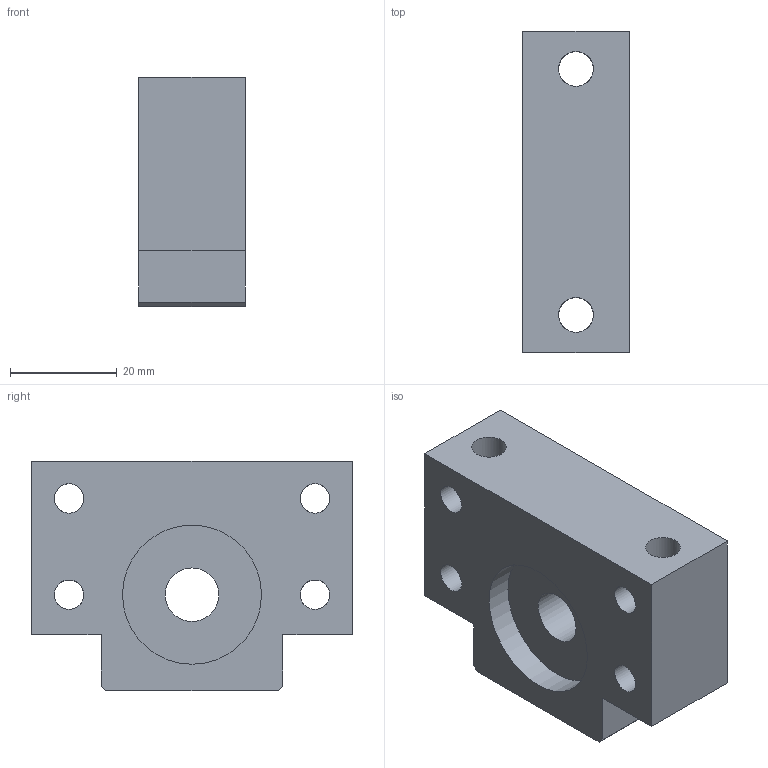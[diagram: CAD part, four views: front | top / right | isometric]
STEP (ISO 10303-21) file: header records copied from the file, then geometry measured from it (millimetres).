
FILE_DESCRIPTION(/* description */ (''),/* implementation_level */ '2;1');
FILE_NAME(/* name */ 'BF12-STP.stp',/* time_stamp */ '2019-11-21T10:38:16+08:00',/* author */ (''),/* organization */ (''),/* preprocessor_version */ 'ST-DEVELOPER v14',/* originating_system */ 'SIEMENS PLM Software NX 8.0',/* authorisation */ '');
FILE_SCHEMA (('AUTOMOTIVE_DESIGN { 1 0 10303 214 3 1 1 1 }'));
Length unit declared in the file: millimetre
Products named in the file (3): 7000; BF12-A; BF12
Assembly tree (2 placements, depth 2):
  BF12
    BF12-A
    7000
Bounding box: 20 x 60 x 43 mm (x, y, z)
Volume: 35436.7 mm3; surface area: 12954.4 mm2
Topology: 2 solids, 2 shells, 31 faces, 92 edges, 63 vertices
Faces by surface type: plane 16, cylinder 15
Full cylindrical faces by diameter (mm): 5.5 x8, 6.5 x2, 10 x1, 11 x2, 26 x2
Entity records: 1512 total; most frequent: CARTESIAN_POINT 720, DIRECTION 142, ORIENTED_EDGE 120, EDGE_LOOP 72, FACE_BOUND 65, EDGE_CURVE 60, AXIS2_PLACEMENT_3D 56, VERTEX_POINT 50
